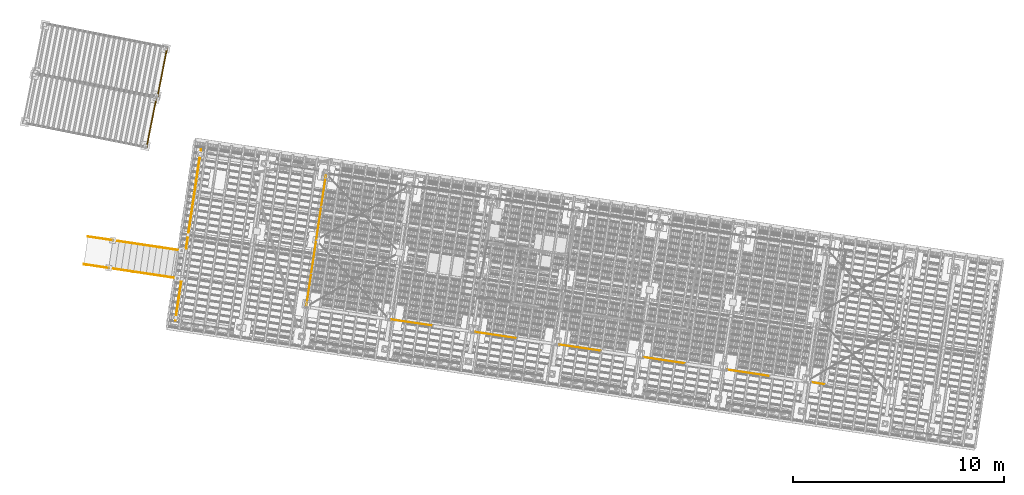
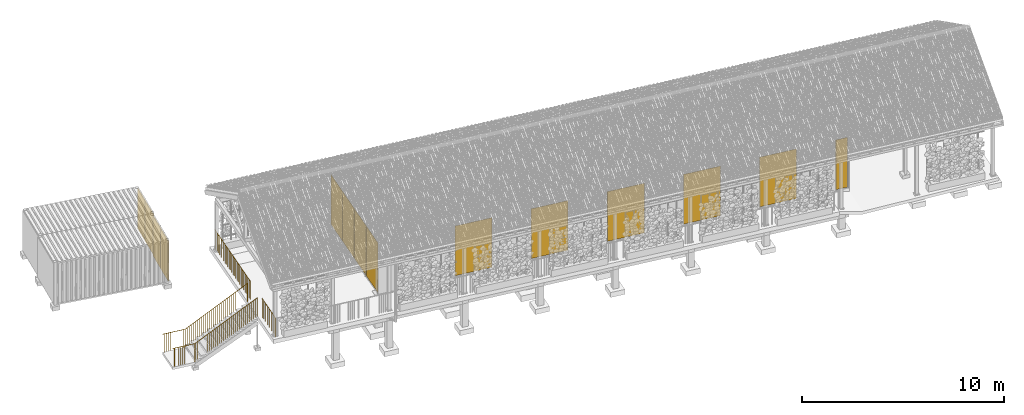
# One storey, part 126 of 131: 11 doors, 6 railings, 3 windows, 4 elements without a shape of their own.
"""IFC4 building model written with IfcOpenShell, lengths in metres."""

from ifc_helpers import new_model, si_unit, direction, frame, origin_with_axes, place, context, subcontext, project, spatial, polyline, circle, outline, extrude, material, element, aggregate, save


model = new_model("IFC4")

# Units and contexts
model_context = context("Model", 3, precision=1e-05, world=origin_with_axes(), true_north=direction((0.0, 1.0)))
body_context = subcontext(model_context, "Body", "Model", "MODEL_VIEW")
ifc_project = project(units=[si_unit("VOLUMEUNIT", "CUBIC_METRE"), si_unit("LENGTHUNIT", "METRE"), si_unit("AREAUNIT", "SQUARE_METRE")], contexts=[model_context])

# Site, building, storey
site_placement = place(None, origin_with_axes())
site = spatial("IfcSite", under=ifc_project, at=site_placement, Name="Lares · Rua das Mercês · artigo 4771")
building_placement = place(site_placement, frame((15.0, 9.7, 14.65), z_axis=(0.0, 0.0, 1.0), x_axis=(0.989015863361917, -0.147809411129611, 0.0)))
building = spatial("IfcBuilding", under=site, at=building_placement, Name="Casa Sobreposta")
storey_placement = place(building_placement, origin_with_axes())
storey = spatial("IfcBuildingStorey", under=building, at=storey_placement, Name="00 · Habitação e estacionamento", Elevation=14.65)

# Doors
ifc_material_1 = material(Name="Vidro / Normalglas", Category="glass")
door_1_placement = place(storey_placement, frame((0.0, 0.0, 0.025), z_axis=(0.0, 0.0, 1.0), x_axis=(1.0, 0.0, 0.0)))
element("IfcDoor", 1, at=door_1_placement, inside=storey, material=ifc_material_1, Name="Folha de correr sul 2", OperationType="SLIDING_TO_LEFT", OverallHeight=3.0, OverallWidth=1.97133333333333, PredefinedType="DOOR", context=body_context, shape_type="SweptSolid", body=[
    extrude(outline(polyline([(6.039, 0.004), (6.039, -0.004), (4.06766666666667, -0.004), (4.06766666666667, 0.004), (6.039, 0.004)])), origin_with_axes(), (0.0, 0.0, 1.0), 3.0),
])
door_2_placement = place(storey_placement, frame((0.0, 0.0, 0.025), z_axis=(0.0, 0.0, 1.0), x_axis=(1.0, 0.0, 0.0)))
element("IfcDoor", 2, at=door_2_placement, inside=storey, material=ifc_material_1, Name="Folha de correr sul 4", OperationType="SLIDING_TO_LEFT", OverallHeight=3.0, OverallWidth=1.97133333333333, PredefinedType="DOOR", context=body_context, shape_type="SweptSolid", body=[
    extrude(outline(polyline([(10.0816666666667, 0.004), (10.0816666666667, -0.004), (8.11033333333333, -0.004), (8.11033333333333, 0.004), (10.0816666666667, 0.004)])), origin_with_axes(), (0.0, 0.0, 1.0), 3.0),
])
door_3_placement = place(storey_placement, frame((0.0, 0.0, 0.025), z_axis=(0.0, 0.0, 1.0), x_axis=(1.0, 0.0, 0.0)))
element("IfcDoor", 3, at=door_3_placement, inside=storey, material=ifc_material_1, Name="Folha de correr sul 6", OperationType="SLIDING_TO_LEFT", OverallHeight=3.0, OverallWidth=1.97133333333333, PredefinedType="DOOR", context=body_context, shape_type="SweptSolid", body=[
    extrude(outline(polyline([(14.1243333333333, 0.004), (14.1243333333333, -0.004), (12.153, -0.004), (12.153, 0.004), (14.1243333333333, 0.004)])), origin_with_axes(), (0.0, 0.0, 1.0), 3.0),
])
door_4_placement = place(storey_placement, frame((0.0, 0.0, 0.025), z_axis=(0.0, 0.0, 1.0), x_axis=(1.0, 0.0, 0.0)))
element("IfcDoor", 4, at=door_4_placement, inside=storey, material=ifc_material_1, Name="Folha de correr sul 8", OperationType="SLIDING_TO_LEFT", OverallHeight=3.0, OverallWidth=1.97133333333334, PredefinedType="DOOR", context=body_context, shape_type="SweptSolid", body=[
    extrude(outline(polyline([(18.167, 0.004), (18.167, -0.004), (16.1956666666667, -0.004), (16.1956666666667, 0.004), (18.167, 0.004)])), origin_with_axes(), (0.0, 0.0, 1.0), 3.0),
])
door_5_placement = place(storey_placement, frame((0.0, 0.0, 0.025), z_axis=(0.0, 0.0, 1.0), x_axis=(1.0, 0.0, 0.0)))
element("IfcDoor", 5, at=door_5_placement, inside=storey, material=ifc_material_1, Name="Folha de correr sul 10", OperationType="SLIDING_TO_LEFT", OverallHeight=3.0, OverallWidth=1.97133333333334, PredefinedType="DOOR", context=body_context, shape_type="SweptSolid", body=[
    extrude(outline(polyline([(22.2096666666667, 0.004), (22.2096666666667, -0.004), (20.2383333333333, -0.004), (20.2383333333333, 0.004), (22.2096666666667, 0.004)])), origin_with_axes(), (0.0, 0.0, 1.0), 3.0),
])
door_6_placement = place(storey_placement, frame((0.0, 0.0, 0.025), z_axis=(0.0, 0.0, 1.0), x_axis=(1.0, 0.0, 0.0)))
element("IfcDoor", 6, at=door_6_placement, inside=storey, material=ifc_material_1, Name="Folha de correr sul 12", OperationType="SLIDING_TO_LEFT", OverallHeight=3.0, OverallWidth=0.614000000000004, PredefinedType="DOOR", context=body_context, shape_type="SweptSolid", body=[
    extrude(outline(polyline([(24.895, 0.004), (24.895, -0.004), (24.281, -0.004), (24.281, 0.004), (24.895, 0.004)])), origin_with_axes(), (0.0, 0.0, 1.0), 3.0),
])

# Windows
window_1_placement = place(storey_placement, frame((0.0, 0.0, 0.025), z_axis=(0.0, 0.0, 1.0), x_axis=(1.0, 0.0, 0.0)))
element("IfcWindow", 7, at=window_1_placement, inside=storey, material=ifc_material_1, Name="Fachada poente integralmente envidraçada · módulo 1", OverallHeight=3.0, OverallWidth=1.55, PartitioningType="SINGLE_PANEL", PredefinedType="WINDOW", context=body_context, shape_type="SweptSolid", body=[
    extrude(outline(polyline([(-0.004, 1.575), (0.004, 1.575), (0.004, 0.025), (-0.004, 0.025), (-0.004, 1.575)])), origin_with_axes(), (0.0, 0.0, 1.0), 3.0),
])
window_2_placement = place(storey_placement, frame((0.0, 0.0, 0.025), z_axis=(0.0, 0.0, 1.0), x_axis=(1.0, 0.0, 0.0)))
element("IfcWindow", 8, at=window_2_placement, inside=storey, material=ifc_material_1, Name="Fachada poente integralmente envidraçada · módulo 2", OverallHeight=3.0, OverallWidth=1.55, PartitioningType="SINGLE_PANEL", PredefinedType="WINDOW", context=body_context, shape_type="SweptSolid", body=[
    extrude(outline(polyline([(-0.004, 3.175), (0.004, 3.175), (0.004, 1.625), (-0.004, 1.625), (-0.004, 3.175)])), origin_with_axes(), (0.0, 0.0, 1.0), 3.0),
])
window_3_placement = place(storey_placement, frame((0.0, 0.0, 0.025), z_axis=(0.0, 0.0, 1.0), x_axis=(1.0, 0.0, 0.0)))
element("IfcWindow", 9, at=window_3_placement, inside=storey, material=ifc_material_1, Name="Fachada poente integralmente envidraçada · módulo 3", OverallHeight=3.0, OverallWidth=1.55, PartitioningType="SINGLE_PANEL", PredefinedType="WINDOW", context=body_context, shape_type="SweptSolid", body=[
    extrude(outline(polyline([(-0.004, 4.775), (0.004, 4.775), (0.004, 3.225), (-0.004, 3.225), (-0.004, 4.775)])), origin_with_axes(), (0.0, 0.0, 1.0), 3.0),
])

# Door
door_7_placement = place(storey_placement, frame((0.0, 0.0, 0.025), z_axis=(0.0, 0.0, 1.0), x_axis=(1.0, 0.0, 0.0)))
element("IfcDoor", 10, at=door_7_placement, inside=storey, material=ifc_material_1, Name="Fachada poente integralmente envidraçada · módulo 4", OperationType="SLIDING_TO_LEFT", OverallHeight=3.0, OverallWidth=1.55, PredefinedType="DOOR", context=body_context, shape_type="SweptSolid", body=[
    extrude(outline(polyline([(-0.004, 6.375), (0.004, 6.375), (0.004, 4.825), (-0.004, 4.825), (-0.004, 6.375)])), origin_with_axes(), (0.0, 0.0, 1.0), 3.0),
])

# Assembly, doors
assembly_1_placement = place(storey_placement, frame((-14.4335953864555, 9.04888612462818, 0.0), z_axis=(0.0, 0.0, 1.0), x_axis=(0.999032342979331, -0.0439815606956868, 0.0)))
assembly_1 = element("IfcElementAssembly", 11, at=assembly_1_placement, inside=storey, Name="Contentor existente 1 · 6 m", ObjectType="EXISTING_SHIPPING_CONTAINER", PredefinedType="USERDEFINED")
ifc_material_2 = material(Name="Contentor · pintura 1", Category="steel")
door_8_placement = place(assembly_1_placement, frame((0.0, 0.0, -1.2), z_axis=(0.0, 0.0, 1.0), x_axis=(1.0, 0.0, 0.0)))
door_8 = element("IfcDoor", 12, at=door_8_placement, material=ifc_material_2, Name="Contentor · porta dupla", OperationType="SINGLE_SWING_LEFT", OverallHeight=2.39, OverallWidth=1.17, PredefinedType="DOOR", context=body_context, shape_type="SweptSolid", body=[
    extrude(outline(polyline([(5.955, 1.21), (6.005, 1.21), (6.005, 0.04), (5.955, 0.04), (5.955, 1.21)])), origin_with_axes(), (0.0, 0.0, 1.0), 2.39),
])
door_9_placement = place(assembly_1_placement, frame((0.0, 0.0, -1.2), z_axis=(0.0, 0.0, 1.0), x_axis=(1.0, 0.0, 0.0)))
door_9 = element("IfcDoor", 13, at=door_9_placement, material=ifc_material_2, Name="Contentor · porta dupla", OperationType="SINGLE_SWING_LEFT", OverallHeight=2.39, OverallWidth=1.17, PredefinedType="DOOR", context=body_context, shape_type="SweptSolid", body=[
    extrude(outline(polyline([(5.955, 2.39), (6.005, 2.39), (6.005, 1.22), (5.955, 1.22), (5.955, 2.39)])), origin_with_axes(), (0.0, 0.0, 1.0), 2.39),
])
aggregate(assembly_1, [door_8, door_9])

assembly_2_placement = place(storey_placement, frame((-14.5932944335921, 6.63122214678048, 0.0), z_axis=(0.0, 0.0, 1.0), x_axis=(0.998832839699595, -0.0483007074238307, 0.0)))
assembly_2 = element("IfcElementAssembly", 14, at=assembly_2_placement, inside=storey, Name="Contentor existente 2 · 6 m", ObjectType="EXISTING_SHIPPING_CONTAINER", PredefinedType="USERDEFINED")
ifc_material_3 = material(Name="Contentor · pintura 2", Category="steel")
door_10_placement = place(assembly_2_placement, frame((0.0, 0.0, -1.2), z_axis=(0.0, 0.0, 1.0), x_axis=(1.0, 0.0, 0.0)))
door_10 = element("IfcDoor", 15, at=door_10_placement, material=ifc_material_3, Name="Contentor · porta dupla", OperationType="SINGLE_SWING_LEFT", OverallHeight=2.39, OverallWidth=1.17, PredefinedType="DOOR", context=body_context, shape_type="SweptSolid", body=[
    extrude(outline(polyline([(5.955, 1.21), (6.005, 1.21), (6.005, 0.04), (5.955, 0.04), (5.955, 1.21)])), origin_with_axes(), (0.0, 0.0, 1.0), 2.39),
])
door_11_placement = place(assembly_2_placement, frame((0.0, 0.0, -1.2), z_axis=(0.0, 0.0, 1.0), x_axis=(1.0, 0.0, 0.0)))
door_11 = element("IfcDoor", 16, at=door_11_placement, material=ifc_material_3, Name="Contentor · porta dupla", OperationType="SINGLE_SWING_LEFT", OverallHeight=2.39, OverallWidth=1.17, PredefinedType="DOOR", context=body_context, shape_type="SweptSolid", body=[
    extrude(outline(polyline([(5.955, 2.39), (6.005, 2.39), (6.005, 1.22), (5.955, 1.22), (5.955, 2.39)])), origin_with_axes(), (0.0, 0.0, 1.0), 2.39),
])
aggregate(assembly_2, [door_10, door_11])

# Assembly, railings
assembly_3_placement = place(storey_placement, origin_with_axes())
assembly_3 = element("IfcElementAssembly", 17, at=assembly_3_placement, inside=storey, Name="Pódio · terraço, casa térrea e cisterna", ObjectType="CISTERN_PODIUM", PredefinedType="USERDEFINED")
ifc_material_4 = material(Name="Aço pintado / Stahl lackiert", Category="steel")
railing_1_placement = place(assembly_3_placement, origin_with_axes())
railing_1 = element("IfcRailing", 18, at=railing_1_placement, material=ifc_material_4, Name="Pódio · guarda poente sul", PredefinedType="GUARDRAIL", context=body_context, shape_type="SweptSolid", body=[
    extrude(circle(Radius=0.015), frame((-6.05, -1.55, 1.06), z_axis=(0.0, 1.0, 0.0), x_axis=(1.0, 0.0, 0.0)), (0.0, 0.0, 1.0), 1.85),
    extrude(circle(Radius=0.0175), frame((-6.05, -1.55, -0.04), z_axis=(0.0, 0.0, 1.0), x_axis=(1.0, 0.0, 0.0)), (0.0, 0.0, 1.0), 1.1),
    extrude(circle(Radius=0.006), frame((-6.05, -1.44117647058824, -0.04), z_axis=(0.0, 0.0, 1.0), x_axis=(1.0, 0.0, 0.0)), (0.0, 0.0, 1.0), 1.1),
    extrude(circle(Radius=0.006), frame((-6.05, -1.33235294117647, -0.04), z_axis=(0.0, 0.0, 1.0), x_axis=(1.0, 0.0, 0.0)), (0.0, 0.0, 1.0), 1.1),
    extrude(circle(Radius=0.006), frame((-6.05, -1.22352941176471, -0.04), z_axis=(0.0, 0.0, 1.0), x_axis=(1.0, 0.0, 0.0)), (0.0, 0.0, 1.0), 1.1),
    extrude(circle(Radius=0.006), frame((-6.05, -1.11470588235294, -0.04), z_axis=(0.0, 0.0, 1.0), x_axis=(1.0, 0.0, 0.0)), (0.0, 0.0, 1.0), 1.1),
    extrude(circle(Radius=0.006), frame((-6.05, -1.00588235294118, -0.04), z_axis=(0.0, 0.0, 1.0), x_axis=(1.0, 0.0, 0.0)), (0.0, 0.0, 1.0), 1.1),
    extrude(circle(Radius=0.006), frame((-6.05, -0.897058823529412, -0.04), z_axis=(0.0, 0.0, 1.0), x_axis=(1.0, 0.0, 0.0)), (0.0, 0.0, 1.0), 1.1),
    extrude(circle(Radius=0.006), frame((-6.05, -0.788235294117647, -0.04), z_axis=(0.0, 0.0, 1.0), x_axis=(1.0, 0.0, 0.0)), (0.0, 0.0, 1.0), 1.1),
    extrude(circle(Radius=0.006), frame((-6.05, -0.679411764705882, -0.04), z_axis=(0.0, 0.0, 1.0), x_axis=(1.0, 0.0, 0.0)), (0.0, 0.0, 1.0), 1.1),
    extrude(circle(Radius=0.006), frame((-6.05, -0.570588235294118, -0.04), z_axis=(0.0, 0.0, 1.0), x_axis=(1.0, 0.0, 0.0)), (0.0, 0.0, 1.0), 1.1),
    extrude(circle(Radius=0.0175), frame((-6.05, -0.461764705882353, -0.04), z_axis=(0.0, 0.0, 1.0), x_axis=(1.0, 0.0, 0.0)), (0.0, 0.0, 1.0), 1.1),
    extrude(circle(Radius=0.006), frame((-6.05, -0.352941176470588, -0.04), z_axis=(0.0, 0.0, 1.0), x_axis=(1.0, 0.0, 0.0)), (0.0, 0.0, 1.0), 1.1),
    extrude(circle(Radius=0.006), frame((-6.05, -0.244117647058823, -0.04), z_axis=(0.0, 0.0, 1.0), x_axis=(1.0, 0.0, 0.0)), (0.0, 0.0, 1.0), 1.1),
    extrude(circle(Radius=0.006), frame((-6.05, -0.135294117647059, -0.04), z_axis=(0.0, 0.0, 1.0), x_axis=(1.0, 0.0, 0.0)), (0.0, 0.0, 1.0), 1.1),
    extrude(circle(Radius=0.006), frame((-6.05, -0.0264705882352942, -0.04), z_axis=(0.0, 0.0, 1.0), x_axis=(1.0, 0.0, 0.0)), (0.0, 0.0, 1.0), 1.1),
    extrude(circle(Radius=0.006), frame((-6.05, 0.0823529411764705, -0.04), z_axis=(0.0, 0.0, 1.0), x_axis=(1.0, 0.0, 0.0)), (0.0, 0.0, 1.0), 1.1),
    extrude(circle(Radius=0.006), frame((-6.05, 0.191176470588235, -0.04), z_axis=(0.0, 0.0, 1.0), x_axis=(1.0, 0.0, 0.0)), (0.0, 0.0, 1.0), 1.1),
    extrude(circle(Radius=0.006), frame((-6.05, 0.3, -0.04), z_axis=(0.0, 0.0, 1.0), x_axis=(1.0, 0.0, 0.0)), (0.0, 0.0, 1.0), 1.1),
])
railing_2_placement = place(assembly_3_placement, origin_with_axes())
railing_2 = element("IfcRailing", 19, at=railing_2_placement, material=ifc_material_4, Name="Pódio · guarda poente norte", PredefinedType="GUARDRAIL", context=body_context, shape_type="SweptSolid", body=[
    extrude(circle(Radius=0.015), frame((-6.05, 1.9, 1.06), z_axis=(0.0, 1.0, 0.0), x_axis=(1.0, 0.0, 0.0)), (0.0, 0.0, 1.0), 4.75),
    extrude(circle(Radius=0.0175), frame((-6.05, 1.9, -0.04), z_axis=(0.0, 0.0, 1.0), x_axis=(1.0, 0.0, 0.0)), (0.0, 0.0, 1.0), 1.1),
    extrude(circle(Radius=0.006), frame((-6.05, 2.00795454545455, -0.04), z_axis=(0.0, 0.0, 1.0), x_axis=(1.0, 0.0, 0.0)), (0.0, 0.0, 1.0), 1.1),
    extrude(circle(Radius=0.006), frame((-6.05, 2.11590909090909, -0.04), z_axis=(0.0, 0.0, 1.0), x_axis=(1.0, 0.0, 0.0)), (0.0, 0.0, 1.0), 1.1),
    extrude(circle(Radius=0.006), frame((-6.05, 2.22386363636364, -0.04), z_axis=(0.0, 0.0, 1.0), x_axis=(1.0, 0.0, 0.0)), (0.0, 0.0, 1.0), 1.1),
    extrude(circle(Radius=0.006), frame((-6.05, 2.33181818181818, -0.04), z_axis=(0.0, 0.0, 1.0), x_axis=(1.0, 0.0, 0.0)), (0.0, 0.0, 1.0), 1.1),
    extrude(circle(Radius=0.006), frame((-6.05, 2.43977272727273, -0.04), z_axis=(0.0, 0.0, 1.0), x_axis=(1.0, 0.0, 0.0)), (0.0, 0.0, 1.0), 1.1),
    extrude(circle(Radius=0.006), frame((-6.05, 2.54772727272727, -0.04), z_axis=(0.0, 0.0, 1.0), x_axis=(1.0, 0.0, 0.0)), (0.0, 0.0, 1.0), 1.1),
    extrude(circle(Radius=0.006), frame((-6.05, 2.65568181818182, -0.04), z_axis=(0.0, 0.0, 1.0), x_axis=(1.0, 0.0, 0.0)), (0.0, 0.0, 1.0), 1.1),
    extrude(circle(Radius=0.006), frame((-6.05, 2.76363636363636, -0.04), z_axis=(0.0, 0.0, 1.0), x_axis=(1.0, 0.0, 0.0)), (0.0, 0.0, 1.0), 1.1),
    extrude(circle(Radius=0.006), frame((-6.05, 2.87159090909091, -0.04), z_axis=(0.0, 0.0, 1.0), x_axis=(1.0, 0.0, 0.0)), (0.0, 0.0, 1.0), 1.1),
    extrude(circle(Radius=0.0175), frame((-6.05, 2.97954545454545, -0.04), z_axis=(0.0, 0.0, 1.0), x_axis=(1.0, 0.0, 0.0)), (0.0, 0.0, 1.0), 1.1),
    extrude(circle(Radius=0.006), frame((-6.05, 3.0875, -0.04), z_axis=(0.0, 0.0, 1.0), x_axis=(1.0, 0.0, 0.0)), (0.0, 0.0, 1.0), 1.1),
    extrude(circle(Radius=0.006), frame((-6.05, 3.19545454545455, -0.04), z_axis=(0.0, 0.0, 1.0), x_axis=(1.0, 0.0, 0.0)), (0.0, 0.0, 1.0), 1.1),
    extrude(circle(Radius=0.006), frame((-6.05, 3.30340909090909, -0.04), z_axis=(0.0, 0.0, 1.0), x_axis=(1.0, 0.0, 0.0)), (0.0, 0.0, 1.0), 1.1),
    extrude(circle(Radius=0.006), frame((-6.05, 3.41136363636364, -0.04), z_axis=(0.0, 0.0, 1.0), x_axis=(1.0, 0.0, 0.0)), (0.0, 0.0, 1.0), 1.1),
    extrude(circle(Radius=0.006), frame((-6.05, 3.51931818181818, -0.04), z_axis=(0.0, 0.0, 1.0), x_axis=(1.0, 0.0, 0.0)), (0.0, 0.0, 1.0), 1.1),
    extrude(circle(Radius=0.006), frame((-6.05, 3.62727272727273, -0.04), z_axis=(0.0, 0.0, 1.0), x_axis=(1.0, 0.0, 0.0)), (0.0, 0.0, 1.0), 1.1),
    extrude(circle(Radius=0.006), frame((-6.05, 3.73522727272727, -0.04), z_axis=(0.0, 0.0, 1.0), x_axis=(1.0, 0.0, 0.0)), (0.0, 0.0, 1.0), 1.1),
    extrude(circle(Radius=0.006), frame((-6.05, 3.84318181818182, -0.04), z_axis=(0.0, 0.0, 1.0), x_axis=(1.0, 0.0, 0.0)), (0.0, 0.0, 1.0), 1.1),
    extrude(circle(Radius=0.006), frame((-6.05, 3.95113636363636, -0.04), z_axis=(0.0, 0.0, 1.0), x_axis=(1.0, 0.0, 0.0)), (0.0, 0.0, 1.0), 1.1),
    extrude(circle(Radius=0.0175), frame((-6.05, 4.05909090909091, -0.04), z_axis=(0.0, 0.0, 1.0), x_axis=(1.0, 0.0, 0.0)), (0.0, 0.0, 1.0), 1.1),
    extrude(circle(Radius=0.006), frame((-6.05, 4.16704545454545, -0.04), z_axis=(0.0, 0.0, 1.0), x_axis=(1.0, 0.0, 0.0)), (0.0, 0.0, 1.0), 1.1),
    extrude(circle(Radius=0.006), frame((-6.05, 4.275, -0.04), z_axis=(0.0, 0.0, 1.0), x_axis=(1.0, 0.0, 0.0)), (0.0, 0.0, 1.0), 1.1),
    extrude(circle(Radius=0.006), frame((-6.05, 4.38295454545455, -0.04), z_axis=(0.0, 0.0, 1.0), x_axis=(1.0, 0.0, 0.0)), (0.0, 0.0, 1.0), 1.1),
    extrude(circle(Radius=0.006), frame((-6.05, 4.49090909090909, -0.04), z_axis=(0.0, 0.0, 1.0), x_axis=(1.0, 0.0, 0.0)), (0.0, 0.0, 1.0), 1.1),
    extrude(circle(Radius=0.006), frame((-6.05, 4.59886363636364, -0.04), z_axis=(0.0, 0.0, 1.0), x_axis=(1.0, 0.0, 0.0)), (0.0, 0.0, 1.0), 1.1),
    extrude(circle(Radius=0.006), frame((-6.05, 4.70681818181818, -0.04), z_axis=(0.0, 0.0, 1.0), x_axis=(1.0, 0.0, 0.0)), (0.0, 0.0, 1.0), 1.1),
    extrude(circle(Radius=0.006), frame((-6.05, 4.81477272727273, -0.04), z_axis=(0.0, 0.0, 1.0), x_axis=(1.0, 0.0, 0.0)), (0.0, 0.0, 1.0), 1.1),
    extrude(circle(Radius=0.006), frame((-6.05, 4.92272727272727, -0.04), z_axis=(0.0, 0.0, 1.0), x_axis=(1.0, 0.0, 0.0)), (0.0, 0.0, 1.0), 1.1),
    extrude(circle(Radius=0.006), frame((-6.05, 5.03068181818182, -0.04), z_axis=(0.0, 0.0, 1.0), x_axis=(1.0, 0.0, 0.0)), (0.0, 0.0, 1.0), 1.1),
    extrude(circle(Radius=0.0175), frame((-6.05, 5.13863636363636, -0.04), z_axis=(0.0, 0.0, 1.0), x_axis=(1.0, 0.0, 0.0)), (0.0, 0.0, 1.0), 1.1),
    extrude(circle(Radius=0.006), frame((-6.05, 5.24659090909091, -0.04), z_axis=(0.0, 0.0, 1.0), x_axis=(1.0, 0.0, 0.0)), (0.0, 0.0, 1.0), 1.1),
    extrude(circle(Radius=0.006), frame((-6.05, 5.35454545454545, -0.04), z_axis=(0.0, 0.0, 1.0), x_axis=(1.0, 0.0, 0.0)), (0.0, 0.0, 1.0), 1.1),
    extrude(circle(Radius=0.006), frame((-6.05, 5.4625, -0.04), z_axis=(0.0, 0.0, 1.0), x_axis=(1.0, 0.0, 0.0)), (0.0, 0.0, 1.0), 1.1),
    extrude(circle(Radius=0.006), frame((-6.05, 5.57045454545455, -0.04), z_axis=(0.0, 0.0, 1.0), x_axis=(1.0, 0.0, 0.0)), (0.0, 0.0, 1.0), 1.1),
    extrude(circle(Radius=0.006), frame((-6.05, 5.67840909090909, -0.04), z_axis=(0.0, 0.0, 1.0), x_axis=(1.0, 0.0, 0.0)), (0.0, 0.0, 1.0), 1.1),
    extrude(circle(Radius=0.006), frame((-6.05, 5.78636363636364, -0.04), z_axis=(0.0, 0.0, 1.0), x_axis=(1.0, 0.0, 0.0)), (0.0, 0.0, 1.0), 1.1),
    extrude(circle(Radius=0.006), frame((-6.05, 5.89431818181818, -0.04), z_axis=(0.0, 0.0, 1.0), x_axis=(1.0, 0.0, 0.0)), (0.0, 0.0, 1.0), 1.1),
    extrude(circle(Radius=0.006), frame((-6.05, 6.00227272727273, -0.04), z_axis=(0.0, 0.0, 1.0), x_axis=(1.0, 0.0, 0.0)), (0.0, 0.0, 1.0), 1.1),
    extrude(circle(Radius=0.006), frame((-6.05, 6.11022727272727, -0.04), z_axis=(0.0, 0.0, 1.0), x_axis=(1.0, 0.0, 0.0)), (0.0, 0.0, 1.0), 1.1),
    extrude(circle(Radius=0.0175), frame((-6.05, 6.21818181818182, -0.04), z_axis=(0.0, 0.0, 1.0), x_axis=(1.0, 0.0, 0.0)), (0.0, 0.0, 1.0), 1.1),
    extrude(circle(Radius=0.006), frame((-6.05, 6.32613636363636, -0.04), z_axis=(0.0, 0.0, 1.0), x_axis=(1.0, 0.0, 0.0)), (0.0, 0.0, 1.0), 1.1),
    extrude(circle(Radius=0.006), frame((-6.05, 6.43409090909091, -0.04), z_axis=(0.0, 0.0, 1.0), x_axis=(1.0, 0.0, 0.0)), (0.0, 0.0, 1.0), 1.1),
    extrude(circle(Radius=0.006), frame((-6.05, 6.54204545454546, -0.04), z_axis=(0.0, 0.0, 1.0), x_axis=(1.0, 0.0, 0.0)), (0.0, 0.0, 1.0), 1.1),
    extrude(circle(Radius=0.006), frame((-6.05, 6.65, -0.04), z_axis=(0.0, 0.0, 1.0), x_axis=(1.0, 0.0, 0.0)), (0.0, 0.0, 1.0), 1.1),
])
aggregate(assembly_3, [railing_1, railing_2])

# Stair, railings
stair_placement = place(storey_placement, origin_with_axes())
stair = element("IfcStair", 20, at=stair_placement, inside=storey, Name="Jardim · escada pela fachada poente", PredefinedType="STRAIGHT_RUN_STAIR")
railing_3_placement = place(stair_placement, origin_with_axes())
railing_3 = element("IfcRailing", 21, at=railing_3_placement, material=ifc_material_4, Name="Jardim · corrimão poente", PredefinedType="GUARDRAIL", context=body_context, shape_type="SweptSolid", body=[
    extrude(circle(Radius=0.015), frame((-6.25, 0.435, 1.06), z_axis=(-0.865486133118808, 0.0, -0.500932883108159), x_axis=(0.0, 1.0, 0.0)), (0.0, 0.0, 1.0), 3.81288604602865),
    extrude(circle(Radius=0.0175), frame((-6.25, 0.435, -0.04), z_axis=(0.0, 0.0, 1.0), x_axis=(1.0, 0.0, 0.0)), (0.0, 0.0, 1.0), 1.1),
    extrude(circle(Radius=0.006), frame((-6.35645161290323, 0.435, -0.101612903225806), z_axis=(0.0, 0.0, 1.0), x_axis=(1.0, 0.0, 0.0)), (0.0, 0.0, 1.0), 1.1),
    extrude(circle(Radius=0.006), frame((-6.46290322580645, 0.435, -0.163225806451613), z_axis=(0.0, 0.0, 1.0), x_axis=(1.0, 0.0, 0.0)), (0.0, 0.0, 1.0), 1.1),
    extrude(circle(Radius=0.006), frame((-6.56935483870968, 0.435, -0.224838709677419), z_axis=(0.0, 0.0, 1.0), x_axis=(1.0, 0.0, 0.0)), (0.0, 0.0, 1.0), 1.1),
    extrude(circle(Radius=0.006), frame((-6.6758064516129, 0.435, -0.286451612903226), z_axis=(0.0, 0.0, 1.0), x_axis=(1.0, 0.0, 0.0)), (0.0, 0.0, 1.0), 1.1),
    extrude(circle(Radius=0.006), frame((-6.78225806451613, 0.435, -0.348064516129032), z_axis=(0.0, 0.0, 1.0), x_axis=(1.0, 0.0, 0.0)), (0.0, 0.0, 1.0), 1.1),
    extrude(circle(Radius=0.006), frame((-6.88870967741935, 0.435, -0.409677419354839), z_axis=(0.0, 0.0, 1.0), x_axis=(1.0, 0.0, 0.0)), (0.0, 0.0, 1.0), 1.1),
    extrude(circle(Radius=0.006), frame((-6.99516129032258, 0.435, -0.471290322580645), z_axis=(0.0, 0.0, 1.0), x_axis=(1.0, 0.0, 0.0)), (0.0, 0.0, 1.0), 1.1),
    extrude(circle(Radius=0.006), frame((-7.10161290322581, 0.435, -0.532903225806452), z_axis=(0.0, 0.0, 1.0), x_axis=(1.0, 0.0, 0.0)), (0.0, 0.0, 1.0), 1.1),
    extrude(circle(Radius=0.006), frame((-7.20806451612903, 0.435, -0.594516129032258), z_axis=(0.0, 0.0, 1.0), x_axis=(1.0, 0.0, 0.0)), (0.0, 0.0, 1.0), 1.1),
    extrude(circle(Radius=0.0175), frame((-7.31451612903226, 0.435, -0.656129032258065), z_axis=(0.0, 0.0, 1.0), x_axis=(1.0, 0.0, 0.0)), (0.0, 0.0, 1.0), 1.1),
    extrude(circle(Radius=0.006), frame((-7.42096774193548, 0.435, -0.717741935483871), z_axis=(0.0, 0.0, 1.0), x_axis=(1.0, 0.0, 0.0)), (0.0, 0.0, 1.0), 1.1),
    extrude(circle(Radius=0.006), frame((-7.52741935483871, 0.435, -0.779354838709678), z_axis=(0.0, 0.0, 1.0), x_axis=(1.0, 0.0, 0.0)), (0.0, 0.0, 1.0), 1.1),
    extrude(circle(Radius=0.006), frame((-7.63387096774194, 0.435, -0.840967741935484), z_axis=(0.0, 0.0, 1.0), x_axis=(1.0, 0.0, 0.0)), (0.0, 0.0, 1.0), 1.1),
    extrude(circle(Radius=0.006), frame((-7.74032258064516, 0.435, -0.902580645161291), z_axis=(0.0, 0.0, 1.0), x_axis=(1.0, 0.0, 0.0)), (0.0, 0.0, 1.0), 1.1),
    extrude(circle(Radius=0.006), frame((-7.84677419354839, 0.435, -0.964193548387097), z_axis=(0.0, 0.0, 1.0), x_axis=(1.0, 0.0, 0.0)), (0.0, 0.0, 1.0), 1.1),
    extrude(circle(Radius=0.006), frame((-7.95322580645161, 0.435, -1.0258064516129), z_axis=(0.0, 0.0, 1.0), x_axis=(1.0, 0.0, 0.0)), (0.0, 0.0, 1.0), 1.1),
    extrude(circle(Radius=0.006), frame((-8.05967741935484, 0.435, -1.08741935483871), z_axis=(0.0, 0.0, 1.0), x_axis=(1.0, 0.0, 0.0)), (0.0, 0.0, 1.0), 1.1),
    extrude(circle(Radius=0.006), frame((-8.16612903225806, 0.435, -1.14903225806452), z_axis=(0.0, 0.0, 1.0), x_axis=(1.0, 0.0, 0.0)), (0.0, 0.0, 1.0), 1.1),
    extrude(circle(Radius=0.006), frame((-8.27258064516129, 0.435, -1.21064516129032), z_axis=(0.0, 0.0, 1.0), x_axis=(1.0, 0.0, 0.0)), (0.0, 0.0, 1.0), 1.1),
    extrude(circle(Radius=0.0175), frame((-8.37903225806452, 0.435, -1.27225806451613), z_axis=(0.0, 0.0, 1.0), x_axis=(1.0, 0.0, 0.0)), (0.0, 0.0, 1.0), 1.1),
    extrude(circle(Radius=0.006), frame((-8.48548387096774, 0.435, -1.33387096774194), z_axis=(0.0, 0.0, 1.0), x_axis=(1.0, 0.0, 0.0)), (0.0, 0.0, 1.0), 1.1),
    extrude(circle(Radius=0.006), frame((-8.59193548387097, 0.435, -1.39548387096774), z_axis=(0.0, 0.0, 1.0), x_axis=(1.0, 0.0, 0.0)), (0.0, 0.0, 1.0), 1.1),
    extrude(circle(Radius=0.006), frame((-8.69838709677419, 0.435, -1.45709677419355), z_axis=(0.0, 0.0, 1.0), x_axis=(1.0, 0.0, 0.0)), (0.0, 0.0, 1.0), 1.1),
    extrude(circle(Radius=0.006), frame((-8.80483870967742, 0.435, -1.51870967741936), z_axis=(0.0, 0.0, 1.0), x_axis=(1.0, 0.0, 0.0)), (0.0, 0.0, 1.0), 1.1),
    extrude(circle(Radius=0.006), frame((-8.91129032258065, 0.435, -1.58032258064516), z_axis=(0.0, 0.0, 1.0), x_axis=(1.0, 0.0, 0.0)), (0.0, 0.0, 1.0), 1.1),
    extrude(circle(Radius=0.006), frame((-9.01774193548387, 0.435, -1.64193548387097), z_axis=(0.0, 0.0, 1.0), x_axis=(1.0, 0.0, 0.0)), (0.0, 0.0, 1.0), 1.1),
    extrude(circle(Radius=0.006), frame((-9.1241935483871, 0.435, -1.70354838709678), z_axis=(0.0, 0.0, 1.0), x_axis=(1.0, 0.0, 0.0)), (0.0, 0.0, 1.0), 1.1),
    extrude(circle(Radius=0.006), frame((-9.23064516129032, 0.435, -1.76516129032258), z_axis=(0.0, 0.0, 1.0), x_axis=(1.0, 0.0, 0.0)), (0.0, 0.0, 1.0), 1.1),
    extrude(circle(Radius=0.006), frame((-9.33709677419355, 0.435, -1.82677419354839), z_axis=(0.0, 0.0, 1.0), x_axis=(1.0, 0.0, 0.0)), (0.0, 0.0, 1.0), 1.1),
    extrude(circle(Radius=0.0175), frame((-9.44354838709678, 0.435, -1.88838709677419), z_axis=(0.0, 0.0, 1.0), x_axis=(1.0, 0.0, 0.0)), (0.0, 0.0, 1.0), 1.1),
    extrude(circle(Radius=0.006), frame((-9.55, 0.435, -1.95), z_axis=(0.0, 0.0, 1.0), x_axis=(1.0, 0.0, 0.0)), (0.0, 0.0, 1.0), 1.1),
])
railing_4_placement = place(stair_placement, origin_with_axes())
railing_4 = element("IfcRailing", 22, at=railing_4_placement, material=ifc_material_4, Name="Jardim · guarda do patamar", PredefinedType="GUARDRAIL", context=body_context, shape_type="SweptSolid", body=[
    extrude(circle(Radius=0.015), frame((-9.55, 0.435, -0.850000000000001), z_axis=(-1.0, 0.0, 0.0), x_axis=(0.0, 1.0, 0.0)), (0.0, 0.0, 1.0), 1.2),
    extrude(circle(Radius=0.0175), frame((-9.55, 0.435, -1.95), z_axis=(0.0, 0.0, 1.0), x_axis=(1.0, 0.0, 0.0)), (0.0, 0.0, 1.0), 1.1),
    extrude(circle(Radius=0.006), frame((-9.65909090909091, 0.435, -1.95), z_axis=(0.0, 0.0, 1.0), x_axis=(1.0, 0.0, 0.0)), (0.0, 0.0, 1.0), 1.1),
    extrude(circle(Radius=0.006), frame((-9.76818181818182, 0.435, -1.95), z_axis=(0.0, 0.0, 1.0), x_axis=(1.0, 0.0, 0.0)), (0.0, 0.0, 1.0), 1.1),
    extrude(circle(Radius=0.006), frame((-9.87727272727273, 0.435, -1.95), z_axis=(0.0, 0.0, 1.0), x_axis=(1.0, 0.0, 0.0)), (0.0, 0.0, 1.0), 1.1),
    extrude(circle(Radius=0.006), frame((-9.98636363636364, 0.435, -1.95), z_axis=(0.0, 0.0, 1.0), x_axis=(1.0, 0.0, 0.0)), (0.0, 0.0, 1.0), 1.1),
    extrude(circle(Radius=0.006), frame((-10.0954545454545, 0.435, -1.95), z_axis=(0.0, 0.0, 1.0), x_axis=(1.0, 0.0, 0.0)), (0.0, 0.0, 1.0), 1.1),
    extrude(circle(Radius=0.006), frame((-10.2045454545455, 0.435, -1.95), z_axis=(0.0, 0.0, 1.0), x_axis=(1.0, 0.0, 0.0)), (0.0, 0.0, 1.0), 1.1),
    extrude(circle(Radius=0.006), frame((-10.3136363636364, 0.435, -1.95), z_axis=(0.0, 0.0, 1.0), x_axis=(1.0, 0.0, 0.0)), (0.0, 0.0, 1.0), 1.1),
    extrude(circle(Radius=0.006), frame((-10.4227272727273, 0.435, -1.95), z_axis=(0.0, 0.0, 1.0), x_axis=(1.0, 0.0, 0.0)), (0.0, 0.0, 1.0), 1.1),
    extrude(circle(Radius=0.006), frame((-10.5318181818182, 0.435, -1.95), z_axis=(0.0, 0.0, 1.0), x_axis=(1.0, 0.0, 0.0)), (0.0, 0.0, 1.0), 1.1),
    extrude(circle(Radius=0.0175), frame((-10.6409090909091, 0.435, -1.95), z_axis=(0.0, 0.0, 1.0), x_axis=(1.0, 0.0, 0.0)), (0.0, 0.0, 1.0), 1.1),
    extrude(circle(Radius=0.006), frame((-10.75, 0.435, -1.95), z_axis=(0.0, 0.0, 1.0), x_axis=(1.0, 0.0, 0.0)), (0.0, 0.0, 1.0), 1.1),
])
railing_5_placement = place(stair_placement, origin_with_axes())
railing_5 = element("IfcRailing", 23, at=railing_5_placement, material=ifc_material_4, Name="Jardim · corrimão poente", PredefinedType="GUARDRAIL", context=body_context, shape_type="SweptSolid", body=[
    extrude(circle(Radius=0.015), frame((-6.25, 1.765, 1.06), z_axis=(-0.865486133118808, 0.0, -0.500932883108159), x_axis=(0.0, 1.0, 0.0)), (0.0, 0.0, 1.0), 3.81288604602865),
    extrude(circle(Radius=0.0175), frame((-6.25, 1.765, -0.04), z_axis=(0.0, 0.0, 1.0), x_axis=(1.0, 0.0, 0.0)), (0.0, 0.0, 1.0), 1.1),
    extrude(circle(Radius=0.006), frame((-6.35645161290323, 1.765, -0.101612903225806), z_axis=(0.0, 0.0, 1.0), x_axis=(1.0, 0.0, 0.0)), (0.0, 0.0, 1.0), 1.1),
    extrude(circle(Radius=0.006), frame((-6.46290322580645, 1.765, -0.163225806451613), z_axis=(0.0, 0.0, 1.0), x_axis=(1.0, 0.0, 0.0)), (0.0, 0.0, 1.0), 1.1),
    extrude(circle(Radius=0.006), frame((-6.56935483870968, 1.765, -0.224838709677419), z_axis=(0.0, 0.0, 1.0), x_axis=(1.0, 0.0, 0.0)), (0.0, 0.0, 1.0), 1.1),
    extrude(circle(Radius=0.006), frame((-6.6758064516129, 1.765, -0.286451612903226), z_axis=(0.0, 0.0, 1.0), x_axis=(1.0, 0.0, 0.0)), (0.0, 0.0, 1.0), 1.1),
    extrude(circle(Radius=0.006), frame((-6.78225806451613, 1.765, -0.348064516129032), z_axis=(0.0, 0.0, 1.0), x_axis=(1.0, 0.0, 0.0)), (0.0, 0.0, 1.0), 1.1),
    extrude(circle(Radius=0.006), frame((-6.88870967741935, 1.765, -0.409677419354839), z_axis=(0.0, 0.0, 1.0), x_axis=(1.0, 0.0, 0.0)), (0.0, 0.0, 1.0), 1.1),
    extrude(circle(Radius=0.006), frame((-6.99516129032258, 1.765, -0.471290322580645), z_axis=(0.0, 0.0, 1.0), x_axis=(1.0, 0.0, 0.0)), (0.0, 0.0, 1.0), 1.1),
    extrude(circle(Radius=0.006), frame((-7.10161290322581, 1.765, -0.532903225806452), z_axis=(0.0, 0.0, 1.0), x_axis=(1.0, 0.0, 0.0)), (0.0, 0.0, 1.0), 1.1),
    extrude(circle(Radius=0.006), frame((-7.20806451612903, 1.765, -0.594516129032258), z_axis=(0.0, 0.0, 1.0), x_axis=(1.0, 0.0, 0.0)), (0.0, 0.0, 1.0), 1.1),
    extrude(circle(Radius=0.0175), frame((-7.31451612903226, 1.765, -0.656129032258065), z_axis=(0.0, 0.0, 1.0), x_axis=(1.0, 0.0, 0.0)), (0.0, 0.0, 1.0), 1.1),
    extrude(circle(Radius=0.006), frame((-7.42096774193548, 1.765, -0.717741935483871), z_axis=(0.0, 0.0, 1.0), x_axis=(1.0, 0.0, 0.0)), (0.0, 0.0, 1.0), 1.1),
    extrude(circle(Radius=0.006), frame((-7.52741935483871, 1.765, -0.779354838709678), z_axis=(0.0, 0.0, 1.0), x_axis=(1.0, 0.0, 0.0)), (0.0, 0.0, 1.0), 1.1),
    extrude(circle(Radius=0.006), frame((-7.63387096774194, 1.765, -0.840967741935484), z_axis=(0.0, 0.0, 1.0), x_axis=(1.0, 0.0, 0.0)), (0.0, 0.0, 1.0), 1.1),
    extrude(circle(Radius=0.006), frame((-7.74032258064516, 1.765, -0.902580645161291), z_axis=(0.0, 0.0, 1.0), x_axis=(1.0, 0.0, 0.0)), (0.0, 0.0, 1.0), 1.1),
    extrude(circle(Radius=0.006), frame((-7.84677419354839, 1.765, -0.964193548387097), z_axis=(0.0, 0.0, 1.0), x_axis=(1.0, 0.0, 0.0)), (0.0, 0.0, 1.0), 1.1),
    extrude(circle(Radius=0.006), frame((-7.95322580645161, 1.765, -1.0258064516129), z_axis=(0.0, 0.0, 1.0), x_axis=(1.0, 0.0, 0.0)), (0.0, 0.0, 1.0), 1.1),
    extrude(circle(Radius=0.006), frame((-8.05967741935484, 1.765, -1.08741935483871), z_axis=(0.0, 0.0, 1.0), x_axis=(1.0, 0.0, 0.0)), (0.0, 0.0, 1.0), 1.1),
    extrude(circle(Radius=0.006), frame((-8.16612903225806, 1.765, -1.14903225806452), z_axis=(0.0, 0.0, 1.0), x_axis=(1.0, 0.0, 0.0)), (0.0, 0.0, 1.0), 1.1),
    extrude(circle(Radius=0.006), frame((-8.27258064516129, 1.765, -1.21064516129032), z_axis=(0.0, 0.0, 1.0), x_axis=(1.0, 0.0, 0.0)), (0.0, 0.0, 1.0), 1.1),
    extrude(circle(Radius=0.0175), frame((-8.37903225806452, 1.765, -1.27225806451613), z_axis=(0.0, 0.0, 1.0), x_axis=(1.0, 0.0, 0.0)), (0.0, 0.0, 1.0), 1.1),
    extrude(circle(Radius=0.006), frame((-8.48548387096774, 1.765, -1.33387096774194), z_axis=(0.0, 0.0, 1.0), x_axis=(1.0, 0.0, 0.0)), (0.0, 0.0, 1.0), 1.1),
    extrude(circle(Radius=0.006), frame((-8.59193548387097, 1.765, -1.39548387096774), z_axis=(0.0, 0.0, 1.0), x_axis=(1.0, 0.0, 0.0)), (0.0, 0.0, 1.0), 1.1),
    extrude(circle(Radius=0.006), frame((-8.69838709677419, 1.765, -1.45709677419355), z_axis=(0.0, 0.0, 1.0), x_axis=(1.0, 0.0, 0.0)), (0.0, 0.0, 1.0), 1.1),
    extrude(circle(Radius=0.006), frame((-8.80483870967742, 1.765, -1.51870967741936), z_axis=(0.0, 0.0, 1.0), x_axis=(1.0, 0.0, 0.0)), (0.0, 0.0, 1.0), 1.1),
    extrude(circle(Radius=0.006), frame((-8.91129032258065, 1.765, -1.58032258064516), z_axis=(0.0, 0.0, 1.0), x_axis=(1.0, 0.0, 0.0)), (0.0, 0.0, 1.0), 1.1),
    extrude(circle(Radius=0.006), frame((-9.01774193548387, 1.765, -1.64193548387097), z_axis=(0.0, 0.0, 1.0), x_axis=(1.0, 0.0, 0.0)), (0.0, 0.0, 1.0), 1.1),
    extrude(circle(Radius=0.006), frame((-9.1241935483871, 1.765, -1.70354838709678), z_axis=(0.0, 0.0, 1.0), x_axis=(1.0, 0.0, 0.0)), (0.0, 0.0, 1.0), 1.1),
    extrude(circle(Radius=0.006), frame((-9.23064516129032, 1.765, -1.76516129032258), z_axis=(0.0, 0.0, 1.0), x_axis=(1.0, 0.0, 0.0)), (0.0, 0.0, 1.0), 1.1),
    extrude(circle(Radius=0.006), frame((-9.33709677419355, 1.765, -1.82677419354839), z_axis=(0.0, 0.0, 1.0), x_axis=(1.0, 0.0, 0.0)), (0.0, 0.0, 1.0), 1.1),
    extrude(circle(Radius=0.0175), frame((-9.44354838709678, 1.765, -1.88838709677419), z_axis=(0.0, 0.0, 1.0), x_axis=(1.0, 0.0, 0.0)), (0.0, 0.0, 1.0), 1.1),
    extrude(circle(Radius=0.006), frame((-9.55, 1.765, -1.95), z_axis=(0.0, 0.0, 1.0), x_axis=(1.0, 0.0, 0.0)), (0.0, 0.0, 1.0), 1.1),
])
railing_6_placement = place(stair_placement, origin_with_axes())
railing_6 = element("IfcRailing", 24, at=railing_6_placement, material=ifc_material_4, Name="Jardim · guarda do patamar", PredefinedType="GUARDRAIL", context=body_context, shape_type="SweptSolid", body=[
    extrude(circle(Radius=0.015), frame((-9.55, 1.765, -0.850000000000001), z_axis=(-1.0, 0.0, 0.0), x_axis=(0.0, 1.0, 0.0)), (0.0, 0.0, 1.0), 1.2),
    extrude(circle(Radius=0.0175), frame((-9.55, 1.765, -1.95), z_axis=(0.0, 0.0, 1.0), x_axis=(1.0, 0.0, 0.0)), (0.0, 0.0, 1.0), 1.1),
    extrude(circle(Radius=0.006), frame((-9.65909090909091, 1.765, -1.95), z_axis=(0.0, 0.0, 1.0), x_axis=(1.0, 0.0, 0.0)), (0.0, 0.0, 1.0), 1.1),
    extrude(circle(Radius=0.006), frame((-9.76818181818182, 1.765, -1.95), z_axis=(0.0, 0.0, 1.0), x_axis=(1.0, 0.0, 0.0)), (0.0, 0.0, 1.0), 1.1),
    extrude(circle(Radius=0.006), frame((-9.87727272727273, 1.765, -1.95), z_axis=(0.0, 0.0, 1.0), x_axis=(1.0, 0.0, 0.0)), (0.0, 0.0, 1.0), 1.1),
    extrude(circle(Radius=0.006), frame((-9.98636363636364, 1.765, -1.95), z_axis=(0.0, 0.0, 1.0), x_axis=(1.0, 0.0, 0.0)), (0.0, 0.0, 1.0), 1.1),
    extrude(circle(Radius=0.006), frame((-10.0954545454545, 1.765, -1.95), z_axis=(0.0, 0.0, 1.0), x_axis=(1.0, 0.0, 0.0)), (0.0, 0.0, 1.0), 1.1),
    extrude(circle(Radius=0.006), frame((-10.2045454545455, 1.765, -1.95), z_axis=(0.0, 0.0, 1.0), x_axis=(1.0, 0.0, 0.0)), (0.0, 0.0, 1.0), 1.1),
    extrude(circle(Radius=0.006), frame((-10.3136363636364, 1.765, -1.95), z_axis=(0.0, 0.0, 1.0), x_axis=(1.0, 0.0, 0.0)), (0.0, 0.0, 1.0), 1.1),
    extrude(circle(Radius=0.006), frame((-10.4227272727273, 1.765, -1.95), z_axis=(0.0, 0.0, 1.0), x_axis=(1.0, 0.0, 0.0)), (0.0, 0.0, 1.0), 1.1),
    extrude(circle(Radius=0.006), frame((-10.5318181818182, 1.765, -1.95), z_axis=(0.0, 0.0, 1.0), x_axis=(1.0, 0.0, 0.0)), (0.0, 0.0, 1.0), 1.1),
    extrude(circle(Radius=0.0175), frame((-10.6409090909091, 1.765, -1.95), z_axis=(0.0, 0.0, 1.0), x_axis=(1.0, 0.0, 0.0)), (0.0, 0.0, 1.0), 1.1),
    extrude(circle(Radius=0.006), frame((-10.75, 1.765, -1.95), z_axis=(0.0, 0.0, 1.0), x_axis=(1.0, 0.0, 0.0)), (0.0, 0.0, 1.0), 1.1),
])
aggregate(stair, [railing_3, railing_4, railing_5, railing_6])

save(model, "model.ifc")
